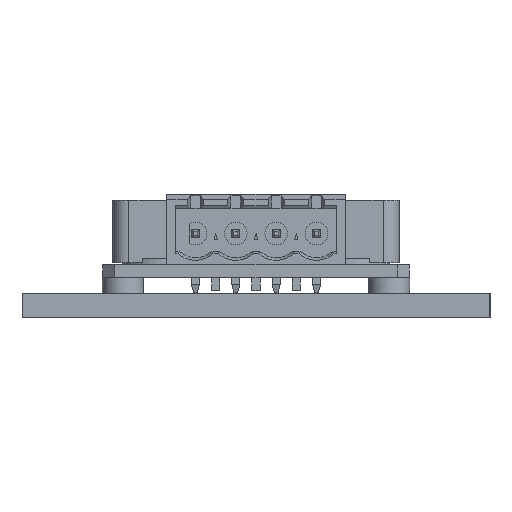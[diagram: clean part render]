
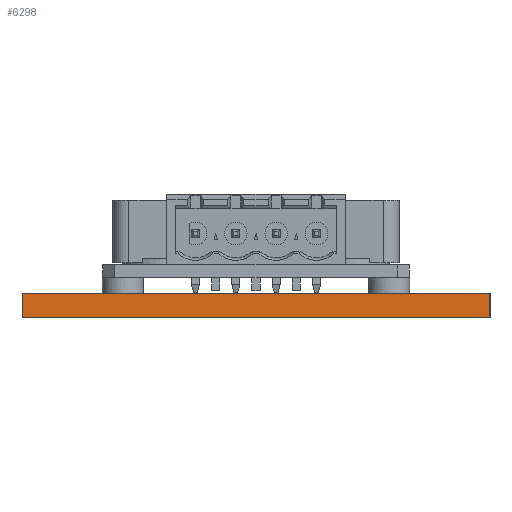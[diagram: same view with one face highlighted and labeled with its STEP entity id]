
A CAD part, left-side view. The second image highlights one B-rep face of the part: STEP entity #6298.
In plain terms, the highlighted planar face has unit normal (-1, 0, 0).
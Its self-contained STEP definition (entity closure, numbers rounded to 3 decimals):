
#399=FACE_OUTER_BOUND('',#7859,.T.);
#1306=PLANE('',#19895);
#2036=LINE('',#26837,#4037);
#2049=LINE('',#26897,#4050);
#2056=LINE('',#26911,#4057);
#2070=LINE('',#26961,#4071);
#4037=VECTOR('',#21484,1.);
#4050=VECTOR('',#21523,1.);
#4057=VECTOR('',#21534,1.);
#4071=VECTOR('',#21574,1.);
#6298=ADVANCED_FACE('BS',(#399),#1306,.T.);
#7859=EDGE_LOOP('',(#9306,#9307,#9308,#9309));
#9306=ORIENTED_EDGE('',*,*,#16625,.T.);
#9307=ORIENTED_EDGE('',*,*,#16596,.T.);
#9308=ORIENTED_EDGE('',*,*,#16573,.T.);
#9309=ORIENTED_EDGE('',*,*,#16603,.F.);
#14721=VERTEX_POINT('',#26836);
#14722=VERTEX_POINT('',#26838);
#14740=VERTEX_POINT('',#26898);
#14744=VERTEX_POINT('',#26910);
#16573=EDGE_CURVE('',#14722,#14721,#2036,.T.);
#16596=EDGE_CURVE('',#14740,#14722,#2049,.T.);
#16603=EDGE_CURVE('',#14744,#14721,#2056,.T.);
#16625=EDGE_CURVE('',#14744,#14740,#2070,.T.);
#19895=AXIS2_PLACEMENT_3D('',#26991,#21602,#21603);
#21484=DIRECTION('',(0.,1.,0.));
#21523=DIRECTION('',(0.,0.,1.));
#21534=DIRECTION('',(0.,0.,1.));
#21574=DIRECTION('',(0.,-1.,0.));
#21602=DIRECTION('',(-1.,0.,0.));
#21603=DIRECTION('',(0.,0.,-1.));
#26836=CARTESIAN_POINT('',(-32.5,29.,0.));
#26837=CARTESIAN_POINT('',(-32.5,0.,0.));
#26838=CARTESIAN_POINT('',(-32.5,-29.,0.));
#26897=CARTESIAN_POINT('',(-32.5,-29.,-3.));
#26898=CARTESIAN_POINT('',(-32.5,-29.,-3.));
#26910=CARTESIAN_POINT('',(-32.5,29.,-3.));
#26911=CARTESIAN_POINT('',(-32.5,29.,-3.));
#26961=CARTESIAN_POINT('',(-32.5,0.,-3.));
#26991=CARTESIAN_POINT('',(-32.5,0.,-3.));
